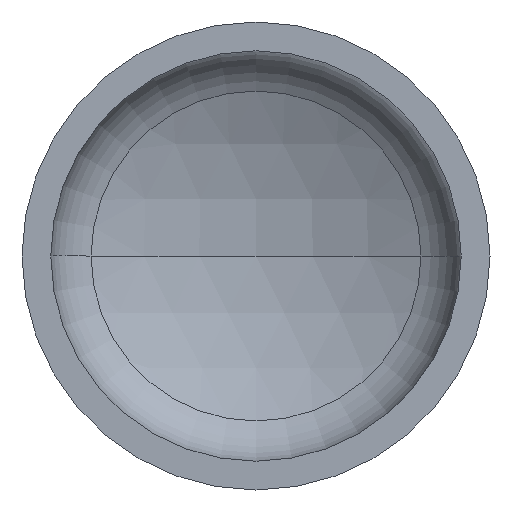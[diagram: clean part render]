
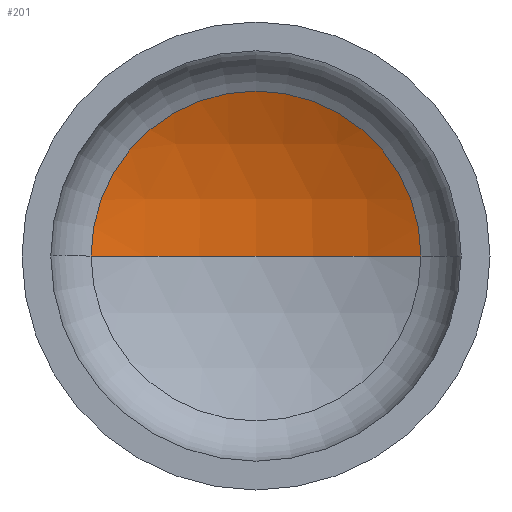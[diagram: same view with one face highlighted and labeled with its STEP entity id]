
A CAD part, front view. The second image highlights one B-rep face of the part: STEP entity #201.
In plain terms, the highlighted spherical face has radius 1040 mm.
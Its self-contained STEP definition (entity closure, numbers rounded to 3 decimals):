
#1 = AXIS2_PLACEMENT_3D ( 'NONE', #378, #114, #140 ) ;
#6 = VERTEX_POINT ( 'NONE', #364 ) ;
#7 = ORIENTED_EDGE ( 'NONE', *, *, #193, .T. ) ;
#11 = EDGE_LOOP ( 'NONE', ( #97, #72, #7 ) ) ;
#68 = VERTEX_POINT ( 'NONE', #297 ) ;
#72 = ORIENTED_EDGE ( 'NONE', *, *, #196, .T. ) ;
#94 = AXIS2_PLACEMENT_3D ( 'NONE', #365, #308, #245 ) ;
#97 = ORIENTED_EDGE ( 'NONE', *, *, #372, .F. ) ;
#108 = AXIS2_PLACEMENT_3D ( 'NONE', #282, #279, #246 ) ;
#112 = AXIS2_PLACEMENT_3D ( 'NONE', #225, #264, #261 ) ;
#114 = DIRECTION ( 'NONE',  ( 0., 0., 1. ) ) ;
#120 = VERTEX_POINT ( 'NONE', #339 ) ;
#140 = DIRECTION ( 'NONE',  ( 1., 0., 0. ) ) ;
#150 = CIRCLE ( 'NONE', #108, 1040. ) ;
#193 = EDGE_CURVE ( 'NONE', #6, #120, #231, .T. ) ;
#196 = EDGE_CURVE ( 'NONE', #68, #6, #150, .T. ) ;
#201 = ADVANCED_FACE ( 'NONE', ( #406 ), #284, .F. ) ;
#225 = CARTESIAN_POINT ( 'NONE',  ( 0., 299.553, 0. ) ) ;
#231 = CIRCLE ( 'NONE', #112, 458.095 ) ;
#245 = DIRECTION ( 'NONE',  ( -1., 0., 0. ) ) ;
#246 = DIRECTION ( 'NONE',  ( -1., 0., 0. ) ) ;
#261 = DIRECTION ( 'NONE',  ( 1., 0., 0. ) ) ;
#264 = DIRECTION ( 'NONE',  ( 0., -1., 0. ) ) ;
#279 = DIRECTION ( 'NONE',  ( 0., 0., -1. ) ) ;
#282 = CARTESIAN_POINT ( 'NONE',  ( 0., -634.122, 0. ) ) ;
#284 = SPHERICAL_SURFACE ( 'NONE', #94, 1040. ) ;
#297 = CARTESIAN_POINT ( 'NONE',  ( 0., 405.878, 0. ) ) ;
#308 = DIRECTION ( 'NONE',  ( 0., 0., -1. ) ) ;
#339 = CARTESIAN_POINT ( 'NONE',  ( -458.095, 299.553, 0. ) ) ;
#364 = CARTESIAN_POINT ( 'NONE',  ( 458.095, 299.553, 0. ) ) ;
#365 = CARTESIAN_POINT ( 'NONE',  ( 0., -634.122, 0. ) ) ;
#372 = EDGE_CURVE ( 'NONE', #68, #120, #390, .T. ) ;
#378 = CARTESIAN_POINT ( 'NONE',  ( 0., -634.122, 0. ) ) ;
#390 = CIRCLE ( 'NONE', #1, 1040. ) ;
#406 = FACE_OUTER_BOUND ( 'NONE', #11, .T. ) ;
